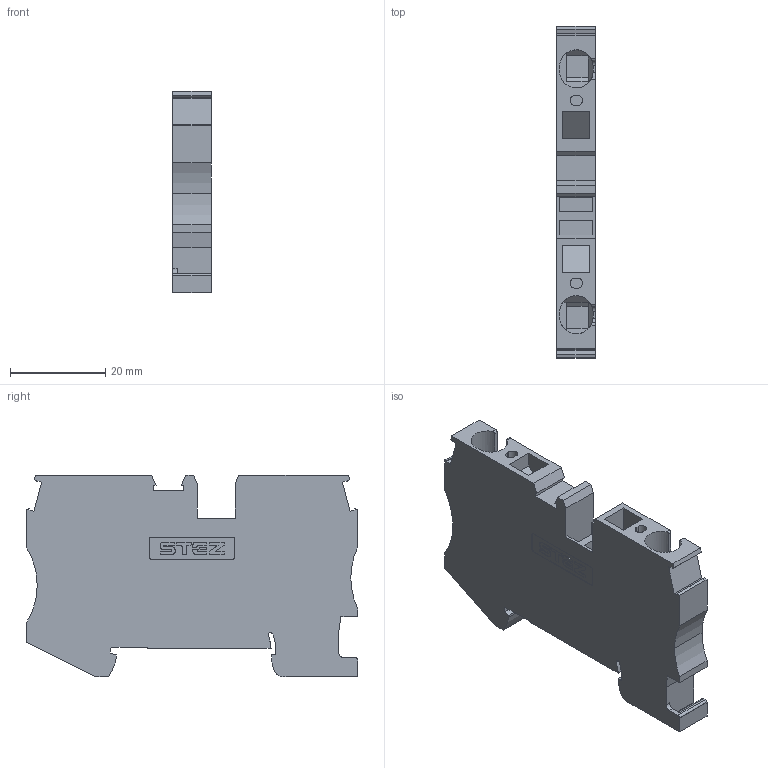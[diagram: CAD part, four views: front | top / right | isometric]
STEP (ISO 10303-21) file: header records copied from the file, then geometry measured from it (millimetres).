
FILE_DESCRIPTION(('TFLEX Exchange Step'),'2;1');
FILE_NAME('10000033_КНЗ_6-2-К.stp', '2023-10-24T10:28:26+03:00',('apanin'),('Unknown organisation'),'TFLEX Exchange 2023.0','T-FLEX CAD','Unknown authorisation');
FILE_SCHEMA( ('AUTOMOTIVE_DESIGN { 1 0 10303 214 1 1 1 1 }') );
Length unit declared in the file: millimetre
Products named in the file (1): Тело_1:1
Bounding box: 8.15 x 69.5 x 42.2 mm (x, y, z)
Volume: 17691.5 mm3; surface area: 9126.8 mm2
Topology: 1 solids, 4 shells, 399 faces, 1189 edges, 809 vertices
Faces by surface type: plane 199, cylinder 194, bspline 6
Entity records: 14310 total; most frequent: CARTESIAN_POINT 3337, ORIENTED_EDGE 2378, DIRECTION 2271, EDGE_CURVE 1189, VERTEX_POINT 809, AXIS2_PLACEMENT_3D 781, VECTOR 709, LINE 709
